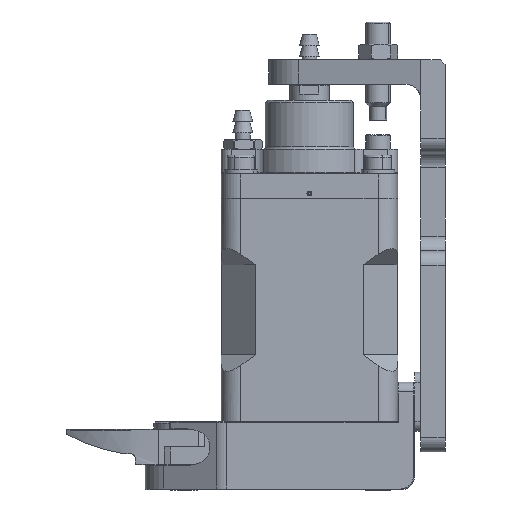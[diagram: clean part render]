
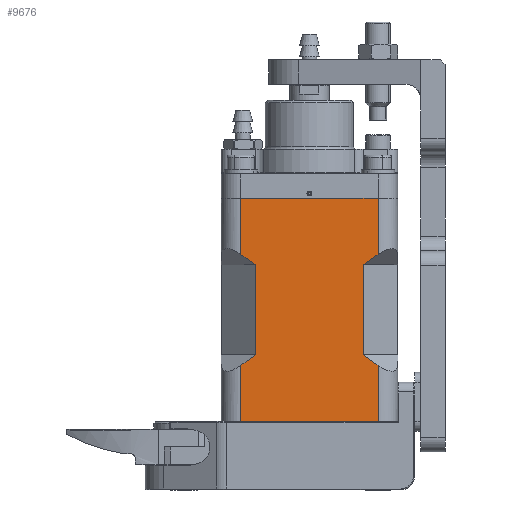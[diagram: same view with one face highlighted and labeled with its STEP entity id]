
A CAD part, left-side view. The second image highlights one B-rep face of the part: STEP entity #9676.
In plain terms, the highlighted planar face has unit normal (-1, 0, 0).
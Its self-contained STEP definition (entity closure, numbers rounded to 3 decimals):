
#9 = DIRECTION ( 'NONE',  ( 1., 0., 0. ) ) ;
#1952 = CARTESIAN_POINT ( 'NONE',  ( -26.469, 16.875, 68.25 ) ) ;
#2010 = DIRECTION ( 'NONE',  ( 0., -0.816, 0.577 ) ) ;
#2401 = LINE ( 'NONE', #20826, #24817 ) ;
#3962 = EDGE_CURVE ( 'NONE', #16782, #17785, #51100, .T. ) ;
#4402 = VERTEX_POINT ( 'NONE', #17848 ) ;
#4696 = VECTOR ( 'NONE', #51052, 1000. ) ;
#5723 = CARTESIAN_POINT ( 'NONE',  ( -26.469, 16.875, 22.75 ) ) ;
#6086 = EDGE_LOOP ( 'NONE', ( #55608, #17176, #14342, #45804, #10127, #20052, #51464, #39601, #33975, #10208, #41679, #26954 ) ) ;
#7344 = VECTOR ( 'NONE', #39180, 1000. ) ;
#7928 = CARTESIAN_POINT ( 'NONE',  ( -26.469, -8.125, 33. ) ) ;
#8109 = CARTESIAN_POINT ( 'NONE',  ( -26.469, 13.875, 54.7 ) ) ;
#8358 = CARTESIAN_POINT ( 'NONE',  ( -26.469, 20.875, 22.75 ) ) ;
#8882 = EDGE_CURVE ( 'NONE', #55623, #42928, #54881, .T. ) ;
#8972 = EDGE_CURVE ( 'NONE', #25036, #49108, #21317, .T. ) ;
#9314 = EDGE_CURVE ( 'NONE', #4402, #49108, #21324, .T. ) ;
#9662 = CARTESIAN_POINT ( 'NONE',  ( -26.469, 16.875, 34.179 ) ) ;
#9676 = ADVANCED_FACE ( 'NONE', ( #41501 ), #53467, .F. ) ;
#10127 = ORIENTED_EDGE ( 'NONE', *, *, #8972, .T. ) ;
#10208 = ORIENTED_EDGE ( 'NONE', *, *, #25498, .T. ) ;
#10513 = LINE ( 'NONE', #28807, #56711 ) ;
#11588 = CARTESIAN_POINT ( 'NONE',  ( -26.469, -8.125, 36.3 ) ) ;
#12290 = CARTESIAN_POINT ( 'NONE',  ( -26.469, -11.125, 68.25 ) ) ;
#12424 = CARTESIAN_POINT ( 'NONE',  ( -26.469, 3.481, 43.65 ) ) ;
#12840 = DIRECTION ( 'NONE',  ( 0., -1., 0. ) ) ;
#13732 = VERTEX_POINT ( 'NONE', #5723 ) ;
#14342 = ORIENTED_EDGE ( 'NONE', *, *, #50361, .T. ) ;
#16782 = VERTEX_POINT ( 'NONE', #28832 ) ;
#16818 = DIRECTION ( 'NONE',  ( 0., 0., 1. ) ) ;
#17176 = ORIENTED_EDGE ( 'NONE', *, *, #26037, .T. ) ;
#17785 = VERTEX_POINT ( 'NONE', #56152 ) ;
#17848 = CARTESIAN_POINT ( 'NONE',  ( -26.469, 16.875, 68.25 ) ) ;
#19532 = EDGE_CURVE ( 'NONE', #4402, #55623, #33692, .T. ) ;
#19631 = VERTEX_POINT ( 'NONE', #23423 ) ;
#19892 = CARTESIAN_POINT ( 'NONE',  ( -26.469, 20.875, 68.25 ) ) ;
#20052 = ORIENTED_EDGE ( 'NONE', *, *, #9314, .F. ) ;
#20462 = VECTOR ( 'NONE', #12840, 1000. ) ;
#20826 = CARTESIAN_POINT ( 'NONE',  ( -26.469, 13.875, 33. ) ) ;
#20861 = AXIS2_PLACEMENT_3D ( 'NONE', #26832, #9, #31341 ) ;
#21317 = LINE ( 'NONE', #32894, #33162 ) ;
#21324 = LINE ( 'NONE', #19892, #51348 ) ;
#21837 = LINE ( 'NONE', #8358, #20462 ) ;
#23423 = CARTESIAN_POINT ( 'NONE',  ( -26.469, -8.125, 54.7 ) ) ;
#23524 = CARTESIAN_POINT ( 'NONE',  ( -26.469, 24.93, 62.516 ) ) ;
#23887 = VECTOR ( 'NONE', #54529, 1000. ) ;
#24309 = DIRECTION ( 'NONE',  ( 0., -1., 0. ) ) ;
#24817 = VECTOR ( 'NONE', #56613, 1000. ) ;
#24838 = CARTESIAN_POINT ( 'NONE',  ( -26.469, -11.125, 68.25 ) ) ;
#25036 = VERTEX_POINT ( 'NONE', #38634 ) ;
#25412 = EDGE_CURVE ( 'NONE', #51519, #42928, #2401, .T. ) ;
#25498 = EDGE_CURVE ( 'NONE', #51519, #56587, #43027, .T. ) ;
#26037 = EDGE_CURVE ( 'NONE', #17785, #37676, #35830, .T. ) ;
#26832 = CARTESIAN_POINT ( 'NONE',  ( -26.469, 20.875, 68.25 ) ) ;
#26954 = ORIENTED_EDGE ( 'NONE', *, *, #40644, .T. ) ;
#27310 = VECTOR ( 'NONE', #16818, 1000. ) ;
#27725 = CARTESIAN_POINT ( 'NONE',  ( -26.469, 26.27, 60.621 ) ) ;
#28807 = CARTESIAN_POINT ( 'NONE',  ( -26.469, 4.821, 45.546 ) ) ;
#28832 = CARTESIAN_POINT ( 'NONE',  ( -26.469, -11.125, 22.75 ) ) ;
#29881 = LINE ( 'NONE', #1952, #4696 ) ;
#30177 = DIRECTION ( 'NONE',  ( 0., 0., 1. ) ) ;
#31341 = DIRECTION ( 'NONE',  ( 0., 1., 0. ) ) ;
#32385 = CARTESIAN_POINT ( 'NONE',  ( -26.469, 16.875, 56.821 ) ) ;
#32894 = CARTESIAN_POINT ( 'NONE',  ( -26.469, -11.125, 68.25 ) ) ;
#33162 = VECTOR ( 'NONE', #37616, 1000. ) ;
#33692 = LINE ( 'NONE', #53197, #35120 ) ;
#33975 = ORIENTED_EDGE ( 'NONE', *, *, #25412, .F. ) ;
#35120 = VECTOR ( 'NONE', #48307, 1000. ) ;
#35830 = LINE ( 'NONE', #27725, #23887 ) ;
#37573 = EDGE_CURVE ( 'NONE', #56587, #13732, #29881, .T. ) ;
#37616 = DIRECTION ( 'NONE',  ( 0., 0., 1. ) ) ;
#37676 = VERTEX_POINT ( 'NONE', #11588 ) ;
#38634 = CARTESIAN_POINT ( 'NONE',  ( -26.469, -11.125, 56.821 ) ) ;
#39180 = DIRECTION ( 'NONE',  ( 0., 0.816, -0.577 ) ) ;
#39601 = ORIENTED_EDGE ( 'NONE', *, *, #8882, .T. ) ;
#40644 = EDGE_CURVE ( 'NONE', #13732, #16782, #21837, .T. ) ;
#41461 = VECTOR ( 'NONE', #30177, 1000. ) ;
#41501 = FACE_OUTER_BOUND ( 'NONE', #6086, .T. ) ;
#41679 = ORIENTED_EDGE ( 'NONE', *, *, #37573, .T. ) ;
#42884 = LINE ( 'NONE', #7928, #41461 ) ;
#42928 = VERTEX_POINT ( 'NONE', #8109 ) ;
#43022 = VECTOR ( 'NONE', #54806, 1000. ) ;
#43027 = LINE ( 'NONE', #12424, #7344 ) ;
#45804 = ORIENTED_EDGE ( 'NONE', *, *, #57661, .T. ) ;
#48307 = DIRECTION ( 'NONE',  ( 0., 0., -1. ) ) ;
#49108 = VERTEX_POINT ( 'NONE', #24838 ) ;
#50361 = EDGE_CURVE ( 'NONE', #37676, #19631, #42884, .T. ) ;
#51052 = DIRECTION ( 'NONE',  ( 0., 0., -1. ) ) ;
#51100 = LINE ( 'NONE', #12290, #27310 ) ;
#51348 = VECTOR ( 'NONE', #24309, 1000. ) ;
#51464 = ORIENTED_EDGE ( 'NONE', *, *, #19532, .T. ) ;
#51519 = VERTEX_POINT ( 'NONE', #52380 ) ;
#52380 = CARTESIAN_POINT ( 'NONE',  ( -26.469, 13.875, 36.3 ) ) ;
#53197 = CARTESIAN_POINT ( 'NONE',  ( -26.469, 16.875, 68.25 ) ) ;
#53467 = PLANE ( 'NONE',  #20861 ) ;
#54529 = DIRECTION ( 'NONE',  ( 0., 0.816, 0.577 ) ) ;
#54806 = DIRECTION ( 'NONE',  ( 0., -0.816, -0.577 ) ) ;
#54881 = LINE ( 'NONE', #23524, #43022 ) ;
#55608 = ORIENTED_EDGE ( 'NONE', *, *, #3962, .T. ) ;
#55623 = VERTEX_POINT ( 'NONE', #32385 ) ;
#56152 = CARTESIAN_POINT ( 'NONE',  ( -26.469, -11.125, 34.179 ) ) ;
#56587 = VERTEX_POINT ( 'NONE', #9662 ) ;
#56613 = DIRECTION ( 'NONE',  ( 0., 0., 1. ) ) ;
#56711 = VECTOR ( 'NONE', #2010, 1000. ) ;
#57661 = EDGE_CURVE ( 'NONE', #19631, #25036, #10513, .T. ) ;
